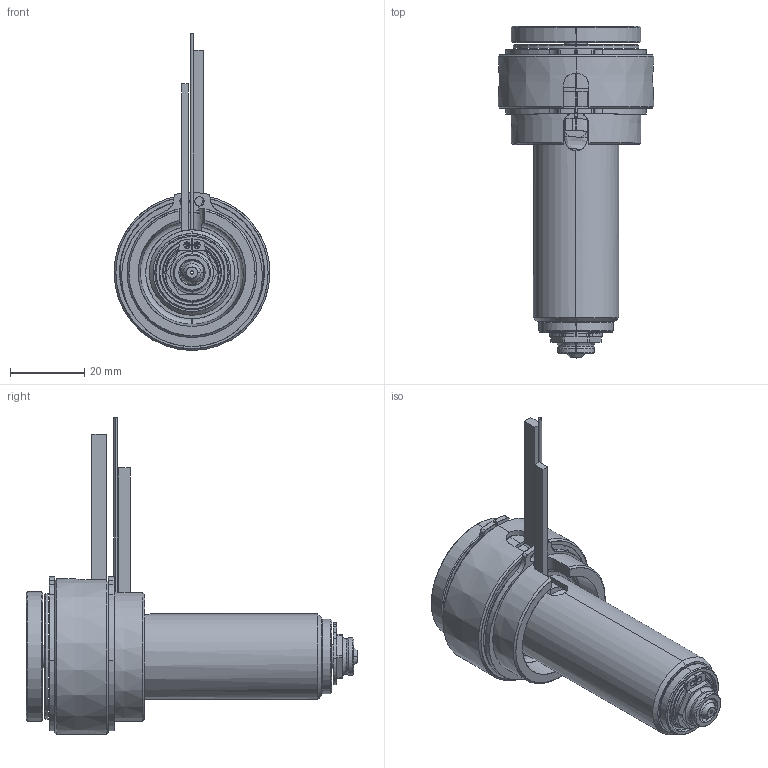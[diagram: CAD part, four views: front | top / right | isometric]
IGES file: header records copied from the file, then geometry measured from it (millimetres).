
Start section: SolidWorks IGES file using analytic representation for surfaces
Global section: file name: C:\Documents and Settings\ws-20\Desktop\TEM\UGER3551-S-A-0 [Øb-0.90  ØC-6.0].IGS; native system: SolidWorks 2012; preprocessor: SolidWorks 2012; author: ws-20; date: 120410.094143; units: millimetre
Bounding box: 42 x 89.4 x 85.4 mm (x, y, z)
Surface area: 31132.4 mm2 (no closed solid volume)
Topology: 0 solids, 0 shells, 208 faces, 3638 edges, 3638 vertices
Faces by surface type: revolution 132, bspline 76
